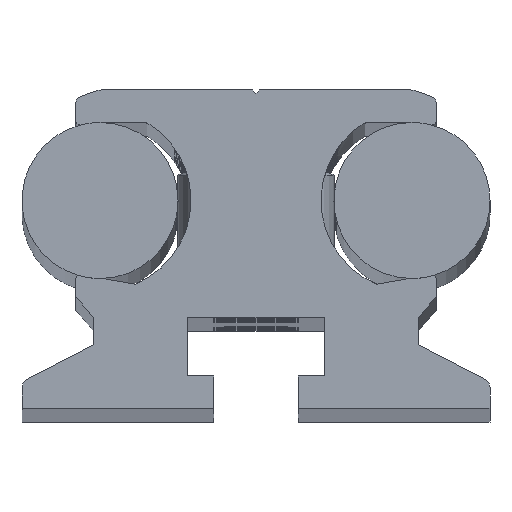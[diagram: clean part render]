
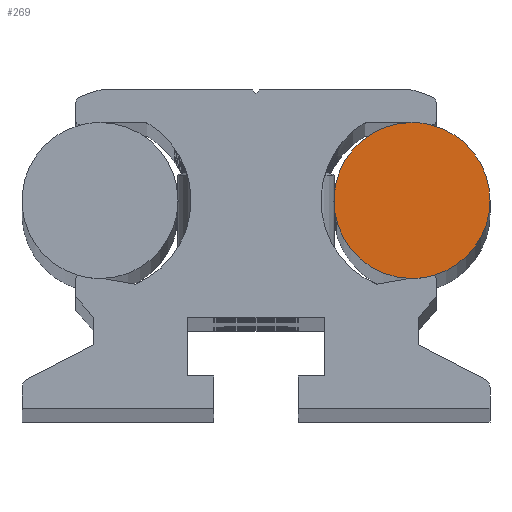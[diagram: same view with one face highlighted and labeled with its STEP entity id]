
A CAD part, top view. The second image highlights one B-rep face of the part: STEP entity #269.
In plain terms, the highlighted planar face has unit normal (0, 0, 1).
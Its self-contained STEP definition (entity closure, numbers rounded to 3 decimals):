
#269 = ADVANCED_FACE ( 'NONE', ( #8932 ), #7751, .T. ) ;
#897 = EDGE_LOOP ( 'NONE', ( #12663, #12616, #12636, #12671, #12619 ) ) ;
#2320 = CARTESIAN_POINT ( 'NONE',  ( 12., 22., -0.5 ) ) ;
#2349 = CARTESIAN_POINT ( 'NONE',  ( 11.819, 10.003, -0.5 ) ) ;
#2727 = CARTESIAN_POINT ( 'NONE',  ( 12., 16., -0.5 ) ) ;
#2730 = DIRECTION ( 'NONE',  ( 0., 0., 1. ) ) ;
#2731 = DIRECTION ( 'NONE',  ( 1., 0., 0. ) ) ;
#2757 = CARTESIAN_POINT ( 'NONE',  ( 12., 16., -0.5 ) ) ;
#2762 = DIRECTION ( 'NONE',  ( 0., 0., -1. ) ) ;
#2763 = DIRECTION ( 'NONE',  ( 1., 0., 0. ) ) ;
#4410 = CIRCLE ( 'NONE', #10655, 6. ) ;
#4462 = CIRCLE ( 'NONE', #10668, 6. ) ;
#5978 = VERTEX_POINT ( 'NONE', #7949 ) ;
#6192 = VERTEX_POINT ( 'NONE', #8089 ) ;
#6239 = VERTEX_POINT ( 'NONE', #8122 ) ;
#7297 = CARTESIAN_POINT ( 'NONE',  ( 12., 16., -0.5 ) ) ;
#7298 = DIRECTION ( 'NONE',  ( 0., 0., -1. ) ) ;
#7299 = DIRECTION ( 'NONE',  ( 1., 0., 0. ) ) ;
#7747 = CARTESIAN_POINT ( 'NONE',  ( 12., 16., -0.5 ) ) ;
#7751 = PLANE ( 'NONE',  #10340 ) ;
#7754 = DIRECTION ( 'NONE',  ( 0., 0., 1. ) ) ;
#7755 = DIRECTION ( 'NONE',  ( 1., 0., 0. ) ) ;
#7949 = CARTESIAN_POINT ( 'NONE',  ( 13.719, 10.251, -0.5 ) ) ;
#8089 = CARTESIAN_POINT ( 'NONE',  ( 13.516, 21.805, -0.5 ) ) ;
#8122 = CARTESIAN_POINT ( 'NONE',  ( 18., 16., -0.5 ) ) ;
#8283 = CARTESIAN_POINT ( 'NONE',  ( 12., 16., -0.5 ) ) ;
#8285 = DIRECTION ( 'NONE',  ( 0., 0., 1. ) ) ;
#8287 = DIRECTION ( 'NONE',  ( 1., 0., 0. ) ) ;
#8302 = CARTESIAN_POINT ( 'NONE',  ( 12., 16., -0.5 ) ) ;
#8304 = DIRECTION ( 'NONE',  ( 0., 0., 1. ) ) ;
#8306 = DIRECTION ( 'NONE',  ( 1., 0., 0. ) ) ;
#8932 = FACE_OUTER_BOUND ( 'NONE', #897, .T. ) ;
#9163 = CIRCLE ( 'NONE', #10107, 6. ) ;
#9170 = CIRCLE ( 'NONE', #10389, 6. ) ;
#9722 = CIRCLE ( 'NONE', #10585, 6. ) ;
#9765 = EDGE_CURVE ( 'NONE', #6192, #12517, #9163, .T. ) ;
#9768 = EDGE_CURVE ( 'NONE', #12546, #5978, #9170, .T. ) ;
#10107 = AXIS2_PLACEMENT_3D ( 'NONE', #8283, #8285, #8287 ) ;
#10340 = AXIS2_PLACEMENT_3D ( 'NONE', #7747, #7754, #7755 ) ;
#10389 = AXIS2_PLACEMENT_3D ( 'NONE', #8302, #8304, #8306 ) ;
#10585 = AXIS2_PLACEMENT_3D ( 'NONE', #7297, #7298, #7299 ) ;
#10655 = AXIS2_PLACEMENT_3D ( 'NONE', #2727, #2730, #2731 ) ;
#10668 = AXIS2_PLACEMENT_3D ( 'NONE', #2757, #2762, #2763 ) ;
#10960 = EDGE_CURVE ( 'NONE', #6239, #5978, #9722, .T. ) ;
#11441 = EDGE_CURVE ( 'NONE', #12517, #12546, #4410, .T. ) ;
#11467 = EDGE_CURVE ( 'NONE', #6192, #6239, #4462, .T. ) ;
#12517 = VERTEX_POINT ( 'NONE', #2320 ) ;
#12546 = VERTEX_POINT ( 'NONE', #2349 ) ;
#12616 = ORIENTED_EDGE ( 'NONE', *, *, #11441, .T. ) ;
#12619 = ORIENTED_EDGE ( 'NONE', *, *, #11467, .F. ) ;
#12636 = ORIENTED_EDGE ( 'NONE', *, *, #9768, .T. ) ;
#12663 = ORIENTED_EDGE ( 'NONE', *, *, #9765, .T. ) ;
#12671 = ORIENTED_EDGE ( 'NONE', *, *, #10960, .F. ) ;
